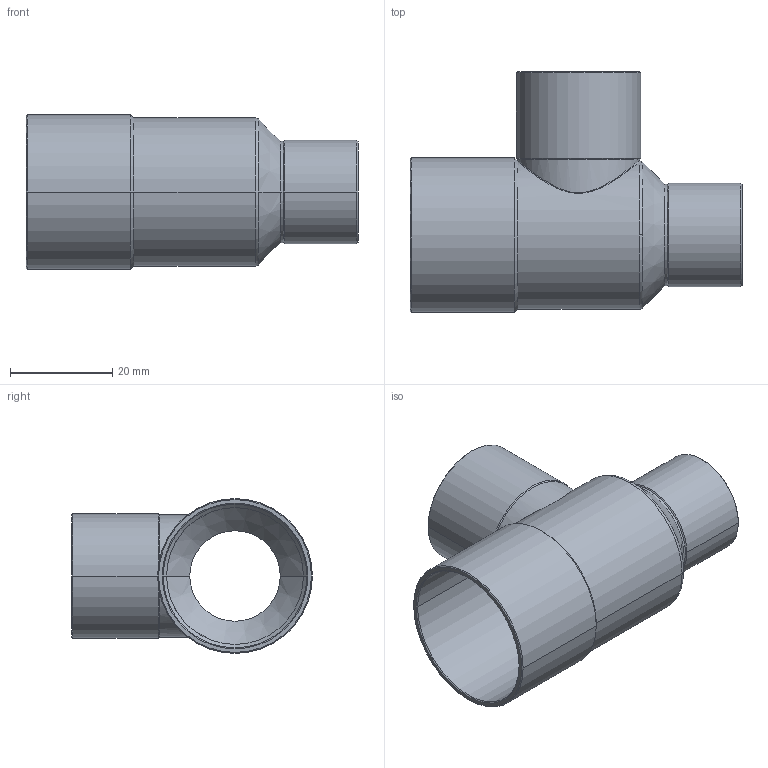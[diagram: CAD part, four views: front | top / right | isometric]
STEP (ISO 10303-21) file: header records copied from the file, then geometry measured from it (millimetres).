
FILE_DESCRIPTION((''),'2;1');
FILE_NAME('G:\Technics\CAD\Bauteile\15130\15130282218.stp','2005-11-03T13:42:45',('boden'),(''),'Autodesk Inventor 8','Autodesk Inventor 8','');
FILE_SCHEMA(('AUTOMOTIVE_DESIGN { 1 0 10303 214 1 1 1 1 }'));
Length unit declared in the file: millimetre
Products named in the file (1): 15130282218
Bounding box: 65 x 47.16 x 30.32 mm (x, y, z)
Volume: 7160.3 mm3; surface area: 13234.8 mm2
Topology: 1 solids, 1 shells, 60 faces, 133 edges, 74 vertices
Faces by surface type: cone 28, cylinder 24, torus 3, plane 3, bspline 2
Entity records: 2089 total; most frequent: CARTESIAN_POINT 728, DIRECTION 304, ORIENTED_EDGE 266, EDGE_CURVE 133, AXIS2_PLACEMENT_3D 126, VERTEX_POINT 74, CIRCLE 67, EDGE_LOOP 63
